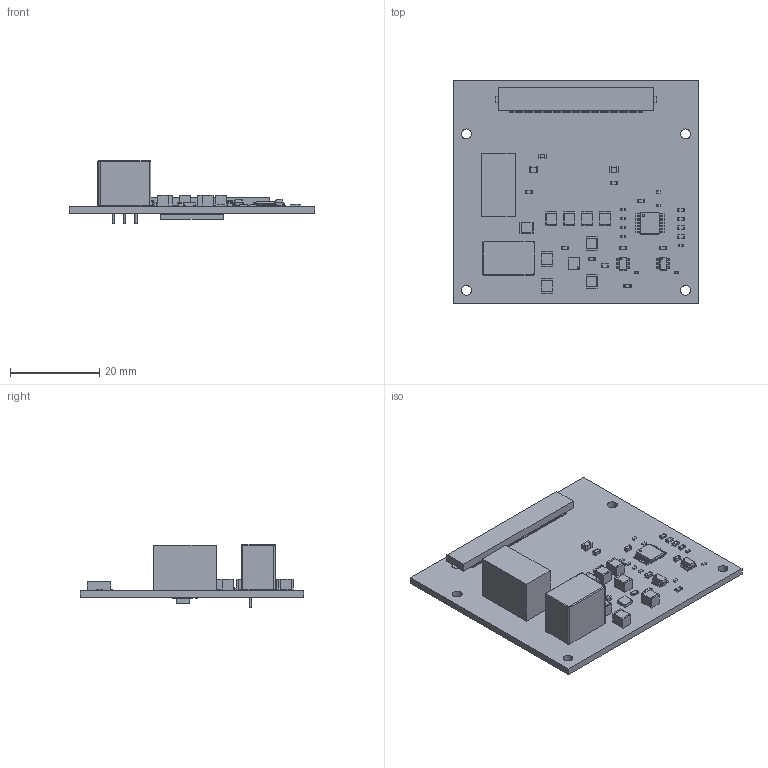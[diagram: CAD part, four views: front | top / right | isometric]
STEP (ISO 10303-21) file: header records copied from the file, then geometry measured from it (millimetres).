
FILE_DESCRIPTION(('KiCad electronic assembly'),'2;1');
FILE_NAME('display-adapter.step','2026-10-23T11:27:33',('Pcbnew'),( 'Kicad'),'Open CASCADE STEP processor 7.9','KiCad to STEP converter' ,'Unknown');
FILE_SCHEMA(('AUTOMOTIVE_DESIGN { 1 0 10303 214 1 1 1 1 }'));
Length unit declared in the file: millimetre
Products named in the file (34): display-adapter 1; R_0402_1005Metric; Converter_DCDC_TRACO_TSR-1_THT; Converter_DCDC_TRACO_TSR_1_THT; C_0603_1608Metric; R_0603_1608Metric; C_1210_3225Metric; SOT-23-6; TSR2-2433-trimmed; Open CASCADE STEP translator 7.9 5; WSON-10-1EP_2.5x2.5mm_P0.5mm_EP1.2x2mm; CQ assembly; 7a0a93aa-926b-11ed-8620-a0cec80452fd; 7a0a93aa-926b-11ed-8620-a0cec80452fd_part; 7a0a9878-926b-11ed-8620-a0cec80452fd; 7a0a9878-926b-11ed-8620-a0cec80452fd_part; 7a0a9b48-926b-11ed-8620-a0cec80452fd; 7a0a9b48-926b-11ed-8620-a0cec80452fd_part; 7a0a9db4-926b-11ed-8620-a0cec80452fd; 7a0a9db4-926b-11ed-8620-a0cec80452fd_part; Molex_505110-6091; Open CASCADE STEP translator 7.9 1; C_0805_2012Metric; TSSOP-14_4.4x5mm_P0.65mm; DF23C-50DP; Open CASCADE STEP translator 7.9 2; display-adapter_PCB
Assembly tree (63 placements, depth 6):
  display-adapter 1
    R_0402_1005Metric  x9
      R_0402_1005Metric
    Converter_DCDC_TRACO_TSR-1_THT
      Converter_DCDC_TRACO_TSR_1_THT
    C_0603_1608Metric  x7
      C_0603_1608Metric
    R_0603_1608Metric  x7
      R_0603_1608Metric
    C_1210_3225Metric  x9
      C_1210_3225Metric
    SOT-23-6  x2
      SOT-23-6
    TSR2-2433-trimmed
      Open CASCADE STEP translator 7.9 5
    WSON-10-1EP_2.5x2.5mm_P0.5mm_EP1.2x2mm
      CQ assembly
        7a0a93aa-926b-11ed-8620-a0cec80452fd
          7a0a93aa-926b-11ed-8620-a0cec80452fd_part
          7a0a9878-926b-11ed-8620-a0cec80452fd
            7a0a9878-926b-11ed-8620-a0cec80452fd_part
          7a0a9b48-926b-11ed-8620-a0cec80452fd
            7a0a9b48-926b-11ed-8620-a0cec80452fd_part
          7a0a9db4-926b-11ed-8620-a0cec80452fd
            7a0a9db4-926b-11ed-8620-a0cec80452fd_part
    Molex_505110-6091
      Open CASCADE STEP translator 7.9 1
    C_0805_2012Metric  x2
      C_0805_2012Metric
    TSSOP-14_4.4x5mm_P0.65mm
      TSSOP-14_4.4x5mm_P0.65mm
    DF23C-50DP
      Open CASCADE STEP translator 7.9 2
    display-adapter_PCB
Bounding box: 55 x 50 x 14.2 mm (x, y, z)
Volume: 6767.3 mm3; surface area: 8770.2 mm2
Topology: 170 solids, 170 shells, 2274 faces, 5467 edges, 3578 vertices
Faces by surface type: plane 1729, cylinder 490, bspline 48, torus 7
Full cylindrical faces by diameter (mm): 0.25 x1, 0.5 x3, 1 x3, 1.1 x3, 2.2 x4
Entity records: 42897 total; most frequent: CARTESIAN_POINT 6750, ORIENTED_EDGE 6248, DIRECTION 6246, EDGE_CURVE 3124, LINE 2716, VECTOR 2716, VERTEX_POINT 2045, AXIS2_PLACEMENT_3D 1765
